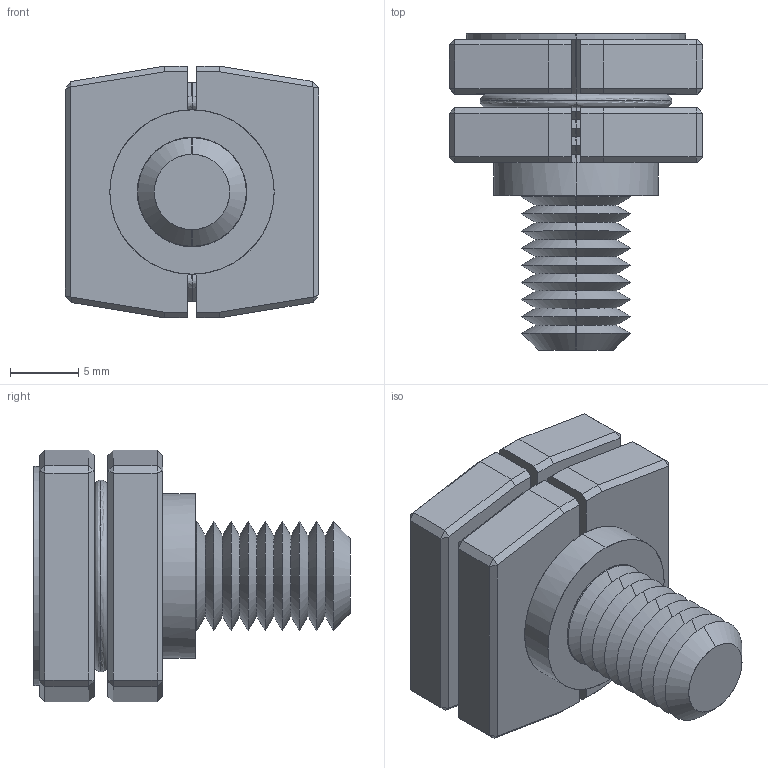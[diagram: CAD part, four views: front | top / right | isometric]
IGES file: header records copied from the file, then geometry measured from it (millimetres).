
Start section: SolidWorks IGES file using analytic representation for surfaces
Global section: file name: C:\Users\liam_\OneDrive\Documents\WORK\Work for WixRoyd\Job Files\J-00025 - Matt Davis CAD - 20191106\04. CAD Drawings\Wixroyd20191106\12454_v2\12454_v2_20191115_IGES\12454.W002A.igs; native system: SolidWorks 2017; preprocessor: SolidWorks 2017; author: liam_; date: 191115.170729; units: millimetre
Bounding box: 18.5 x 23.1 x 18.4 mm (x, y, z)
Surface area: 3356.6 mm2 (no closed solid volume)
Topology: 0 solids, 0 shells, 197 faces, 1146 edges, 1144 vertices
Faces by surface type: bspline 125, revolution 72
